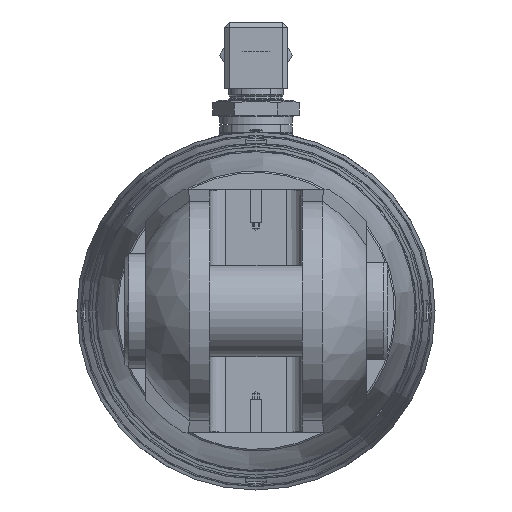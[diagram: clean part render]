
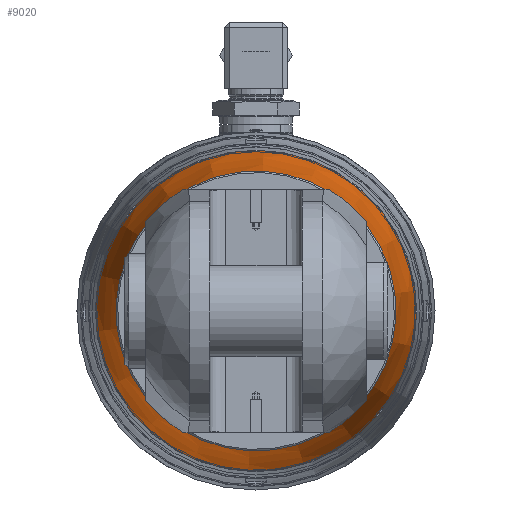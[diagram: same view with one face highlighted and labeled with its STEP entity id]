
A CAD part, left-side view. The second image highlights one B-rep face of the part: STEP entity #9020.
In plain terms, the highlighted conical face has half-angle 10 degrees and reference radius 57.22 mm.
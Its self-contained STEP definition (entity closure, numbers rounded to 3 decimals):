
#110=CONICAL_SURFACE('',#9855,57.22,0.175);
#977=LINE('',#15922,#1559);
#1559=VECTOR('',#11839,57.22);
#2673=FACE_OUTER_BOUND('',#3209,.T.);
#3209=EDGE_LOOP('',(#7721,#7722,#7723,#7724,#7725,#7726));
#3688=CIRCLE('',#9853,61.101);
#3689=CIRCLE('',#9854,61.101);
#3690=CIRCLE('',#9856,53.34);
#3691=CIRCLE('',#9857,53.34);
#4451=VERTEX_POINT('',#15912);
#4452=VERTEX_POINT('',#15913);
#4453=VERTEX_POINT('',#15918);
#4454=VERTEX_POINT('',#15919);
#5589=EDGE_CURVE('',#4451,#4452,#3688,.T.);
#5590=EDGE_CURVE('',#4452,#4451,#3689,.T.);
#5592=EDGE_CURVE('',#4453,#4454,#3690,.T.);
#5593=EDGE_CURVE('',#4454,#4453,#3691,.T.);
#5594=EDGE_CURVE('',#4454,#4452,#977,.T.);
#7721=ORIENTED_EDGE('',*,*,#5592,.F.);
#7722=ORIENTED_EDGE('',*,*,#5593,.F.);
#7723=ORIENTED_EDGE('',*,*,#5594,.T.);
#7724=ORIENTED_EDGE('',*,*,#5589,.F.);
#7725=ORIENTED_EDGE('',*,*,#5590,.F.);
#7726=ORIENTED_EDGE('',*,*,#5594,.F.);
#9020=ADVANCED_FACE('',(#2673),#110,.T.);
#9853=AXIS2_PLACEMENT_3D('',#15914,#11828,#11829);
#9854=AXIS2_PLACEMENT_3D('',#15915,#11830,#11831);
#9855=AXIS2_PLACEMENT_3D('',#15917,#11833,#11834);
#9856=AXIS2_PLACEMENT_3D('',#15920,#11835,#11836);
#9857=AXIS2_PLACEMENT_3D('',#15921,#11837,#11838);
#11828=DIRECTION('center_axis',(1.,0.,0.));
#11829=DIRECTION('ref_axis',(0.,0.605,0.796));
#11830=DIRECTION('center_axis',(1.,0.,0.));
#11831=DIRECTION('ref_axis',(0.,0.605,0.796));
#11833=DIRECTION('center_axis',(1.,0.,0.));
#11834=DIRECTION('ref_axis',(0.,-0.605,-0.796));
#11835=DIRECTION('center_axis',(-1.,0.,0.));
#11836=DIRECTION('ref_axis',(0.,0.605,0.796));
#11837=DIRECTION('center_axis',(-1.,0.,0.));
#11838=DIRECTION('ref_axis',(0.,0.605,0.796));
#11839=DIRECTION('',(0.985,0.105,0.138));
#15912=CARTESIAN_POINT('',(-1584.792,-36.987,-48.634));
#15913=CARTESIAN_POINT('',(-1584.792,36.987,48.634));
#15914=CARTESIAN_POINT('Origin',(-1584.792,0.,
0.));
#15915=CARTESIAN_POINT('Origin',(-1584.792,0.,
0.));
#15917=CARTESIAN_POINT('Origin',(-1606.8,0.,0.));
#15918=CARTESIAN_POINT('',(-1628.808,-32.289,-42.456));
#15919=CARTESIAN_POINT('',(-1628.808,32.289,42.456));
#15920=CARTESIAN_POINT('Origin',(-1628.808,0.,
0.));
#15921=CARTESIAN_POINT('Origin',(-1628.808,0.,
0.));
#15922=CARTESIAN_POINT('',(-1606.8,34.638,45.545));
